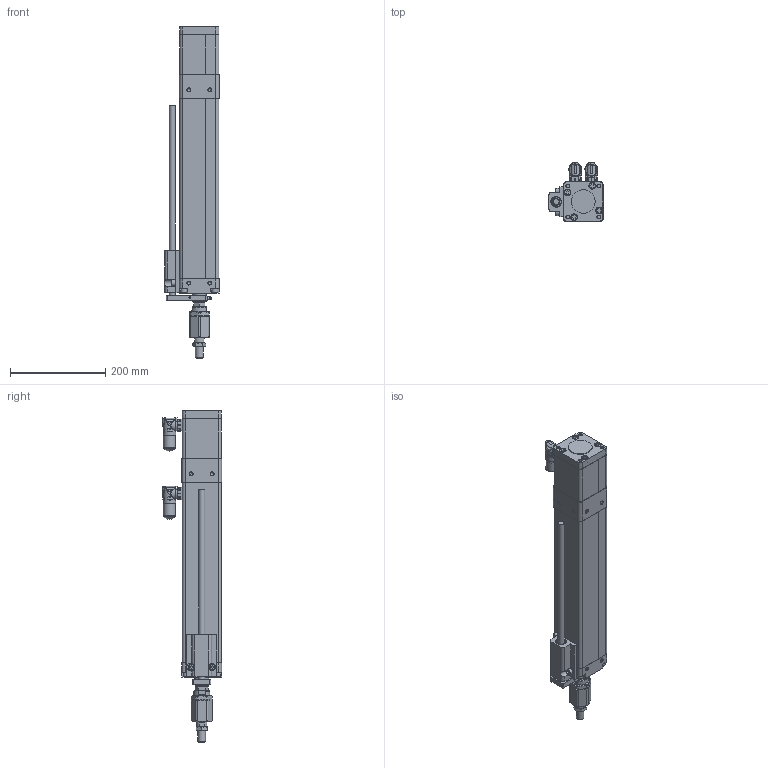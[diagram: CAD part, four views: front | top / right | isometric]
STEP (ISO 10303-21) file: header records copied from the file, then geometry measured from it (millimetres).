
FILE_DESCRIPTION (( 'STEP AP203' ), '1' );
FILE_NAME ('IMA33_BN05_SM304.800_IMA-495378-1.step', '2025-08-19T16:05:12', ( '' ), ( '' ), 'SwSTEP 2.0', 'SolidWorks 2024', '' );
FILE_SCHEMA (( 'CONFIG_CONTROL_DESIGN' ));
Length unit declared in the file: inch
Products named in the file (6): tempJoin0_27339074_IMA33_BN05_SM304.800_IMA-495378-1; 27339800_IMA33_BN05_SM304.800_IMA-495378-1; tempJoin0_27339012_IMA33_BN05_SM304.800_IMA-495378-1; tempJoin0_27339075_IMA33_BN05_SM304.800_IMA-495378-1; IMA33_BN05_SM304.800_IMA-495378-1; Base_IMA33_BN05_SM304.800_IMA-495378-1
Assembly tree (5 placements, depth 2):
  IMA33_BN05_SM304.800_IMA-495378-1
    tempJoin0_27339075_IMA33_BN05_SM304.800_IMA-495378-1
    tempJoin0_27339074_IMA33_BN05_SM304.800_IMA-495378-1
    tempJoin0_27339012_IMA33_BN05_SM304.800_IMA-495378-1
    27339800_IMA33_BN05_SM304.800_IMA-495378-1
    Base_IMA33_BN05_SM304.800_IMA-495378-1
Bounding box: 114.05 x 124.46 x 697.08 mm (x, y, z)
Volume: 3971616.2 mm3; surface area: 399195.6 mm2
Topology: 5 solids, 28 shells, 1580 faces, 3905 edges, 2552 vertices
Faces by surface type: plane 770, cylinder 406, cone 205, bspline 115, torus 68, sphere 16
Full cylindrical faces by diameter (mm): 1 x17, 1.18 x17, 1.575 x4, 2.5 x8, 2.972 x8, 3.26 x8, 4.2 x1, 4.5 x10, 5 x1, 5.35 x3, 5.5 x2, 5.61 x1, 5.9 x2, 6 x1, 6.477 x1, 6.701 x16, 6.76 x1, 8 x6, 8.3 x32, 8.331 x4, 8.5 x1, 9.53 x1, 10 x1, 11.1 x1, 11.43 x1, 12.687 x1, 12.7 x2, 13 x10, 13.462 x1, 14.275 x6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
Entity records: 58360 total; most frequent: CARTESIAN_POINT 23616, ORIENTED_EDGE 6776, DIRECTION 6543, EDGE_CURVE 3388, AXIS2_PLACEMENT_3D 2570, VERTEX_POINT 2426, EDGE_LOOP 2216, FACE_OUTER_BOUND 1857
